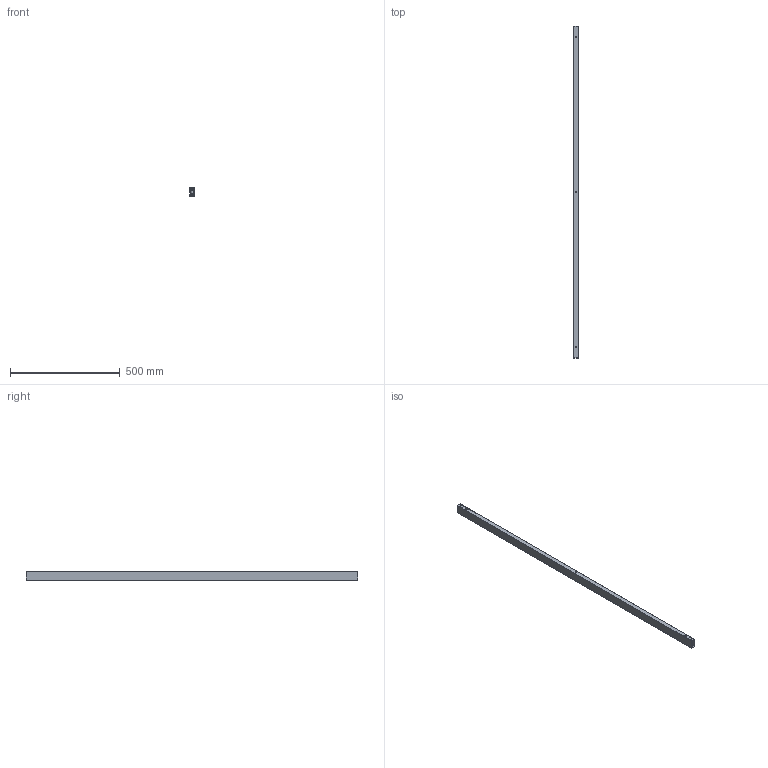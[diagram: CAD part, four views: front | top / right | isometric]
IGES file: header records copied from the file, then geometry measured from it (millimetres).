
Start section: Data from Parasolid IGES Translator 20.0.26, Copyright(c) 2006 Siemens P LM Software. All Rights Reserved.
Global section: file name: 46014.igs; native system: By Siemens PLM Incorporated; preprocessor: XPlus GENERIC/IGES 20.0.26; author: Noname; organization: Noname; date: 20210125.173227; units: millimetre
Bounding box: 20 x 1510 x 41.5 mm (x, y, z)
Surface area: 347346 mm2 (no closed solid volume)
Topology: 0 solids, 0 shells, 33 faces, 174 edges, 136 vertices
Faces by surface type: revolution 21, extrusion 12
